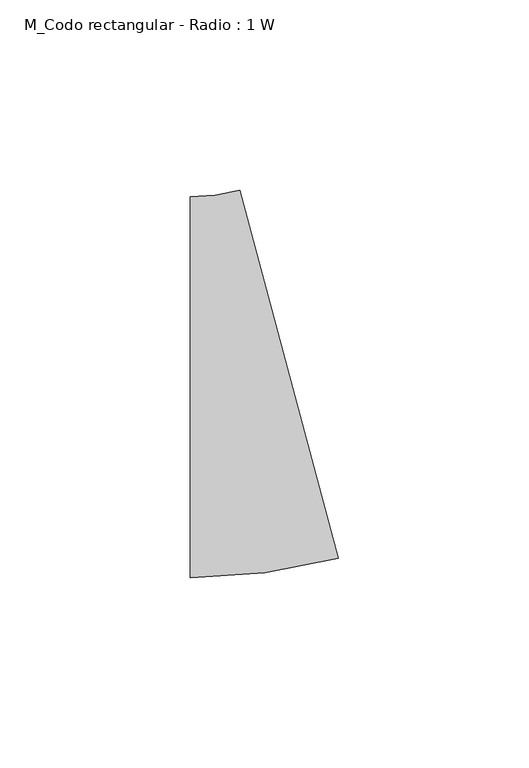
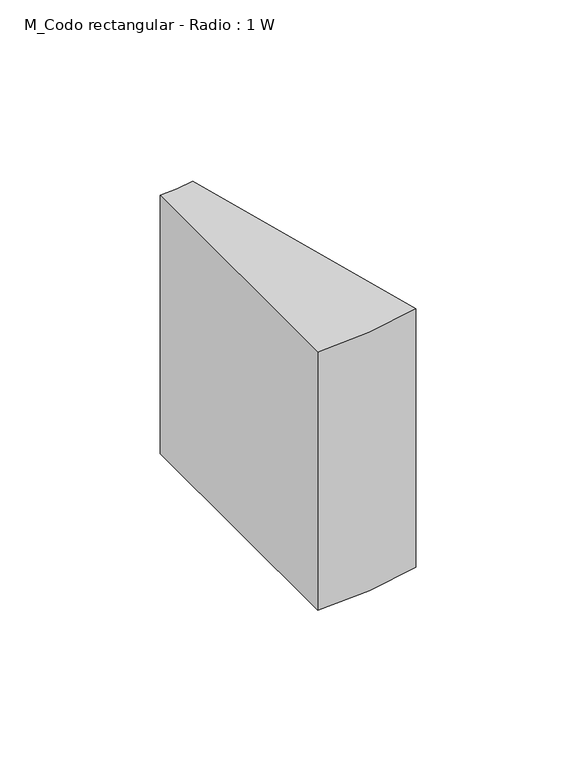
"""IFC4 building model written with IfcOpenShell, lengths in millimetres: duct fitting geometry, M_Codo rectangular - Radio : 1 W."""

from ifc_helpers import new_model, si_unit, point, frame, frame_2d, origin, place, context, project, spatial, polyline, circle_curve, trimmed, segment, composite_curve, outline, extrude, source, transform, mapped, element, save


def m_codo_rectangular_radio_1_w_1eb82697(model_context):
    return source(origin(), model_context, "Body", "SweptSolid", [
        extrude(outline(composite_curve([segment(trimmed(circle_curve(frame_2d((-13.1652498, 100.0)), 150.0), [point((25.657607, -44.8888739))], [point((-13.1652498, -50.0))], False, "CARTESIAN"), True, "CONTINUOUS"), segment(polyline([(-13.1652498, -50.0), (-13.1652498, 50.0)]), True, "CONTINUOUS"), segment(trimmed(circle_curve(frame_2d((-13.1652498, 100.0)), 50.0), [point((-13.1652498, 50.0))], [point((-0.2242975, 51.7037087))], True, "CARTESIAN"), True, "CONTINUOUS"), segment(polyline([(-0.2242975, 51.7037087), (25.657607, -44.8888739)]), True, "CONTINUOUS")], self_intersect=False)), frame((0.0, 0.0, -50.0), z_axis=(0.0, 0.0, 1.0), x_axis=(1.0, 0.0, 0.0)), (0.0, 0.0, 1.0), 100.0),
    ])


if __name__ == "__main__":
    model = new_model("IFC4")
    model_context = context("Model", 3, world=origin())
    ifc_project = project(units=[si_unit("LENGTHUNIT", "METRE", prefix="MILLI")], contexts=[model_context])
    site = spatial("IfcSite", under=ifc_project)
    building = spatial("IfcBuilding", under=site)
    placement = place(None, origin())
    m_codo_rectangular_radio_1_w_shape = m_codo_rectangular_radio_1_w_1eb82697(model_context)
    element("IfcDuctFitting", 1, ObjectType="M_Codo rectangular - Radio : 1 W", at=placement, inside=building, context=model_context, shape_type="MappedRepresentation", body=[
        mapped(m_codo_rectangular_radio_1_w_shape, transform((0.0, 0.0, 0.0), x_axis=(1.0, 0.0, 0.0), y_axis=(0.0, 1.0, 0.0), z_axis=(0.0, 0.0, 1.0))),
    ])
    save(model, "model.ifc")
